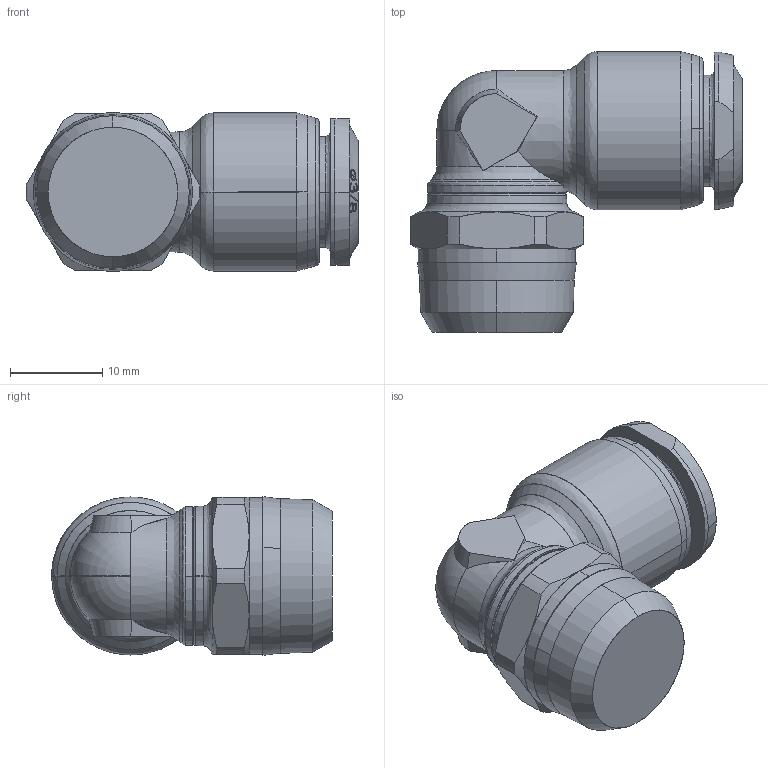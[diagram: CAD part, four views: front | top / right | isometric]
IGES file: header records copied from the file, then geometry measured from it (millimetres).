
Start section: SolidWorks IGES file using analytic representation for surfaces
Global section: file name: C:\Users\Cad01\Desktop\assiemi alfa\85110\8511100015A.igs; native system: SolidWorks 2012; preprocessor: SolidWorks 2012; author: Cad01; date: 121031.152147; units: millimetre
Bounding box: 35.9 x 30.35 x 17.17 mm (x, y, z)
Surface area: 3062.3 mm2 (no closed solid volume)
Topology: 0 solids, 0 shells, 181 faces, 1919 edges, 1917 vertices
Faces by surface type: bspline 107, revolution 74
